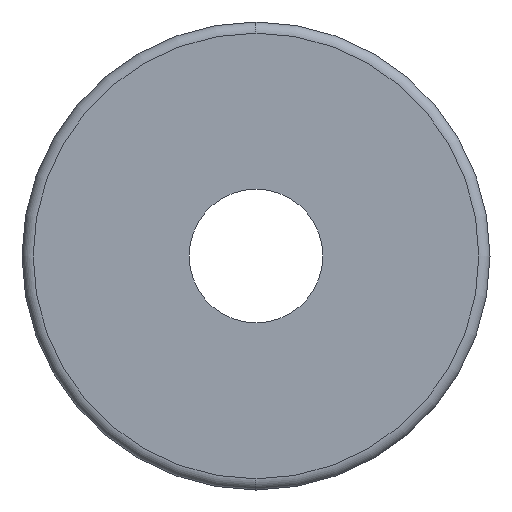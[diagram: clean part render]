
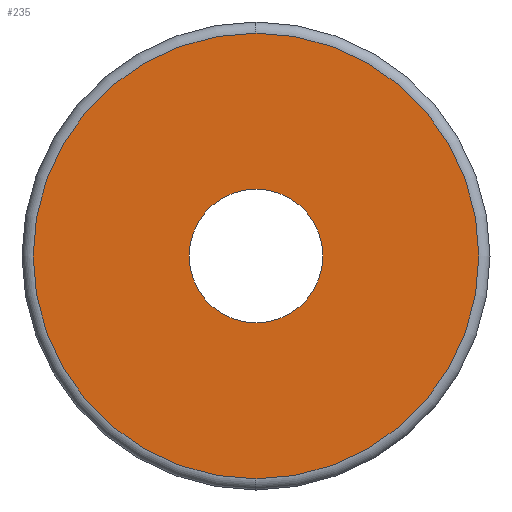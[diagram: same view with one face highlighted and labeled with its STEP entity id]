
A CAD part, left-side view. The second image highlights one B-rep face of the part: STEP entity #235.
In plain terms, the highlighted planar face has unit normal (-1, 0, 0).
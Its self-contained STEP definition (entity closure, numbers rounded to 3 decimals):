
#1 = DIRECTION ( 'NONE',  ( 0., 0., -1. ) ) ;
#14 = DIRECTION ( 'NONE',  ( 0., 0., 1. ) ) ;
#16 = DIRECTION ( 'NONE',  ( 1., 0., 0. ) ) ;
#37 = VERTEX_POINT ( 'NONE', #179 ) ;
#66 = ORIENTED_EDGE ( 'NONE', *, *, #378, .F. ) ;
#75 = AXIS2_PLACEMENT_3D ( 'NONE', #343, #325, #274 ) ;
#92 = AXIS2_PLACEMENT_3D ( 'NONE', #142, #363, #170 ) ;
#94 = AXIS2_PLACEMENT_3D ( 'NONE', #372, #229, #1 ) ;
#113 = CARTESIAN_POINT ( 'NONE',  ( 0., 0., -20. ) ) ;
#139 = EDGE_CURVE ( 'NONE', #254, #395, #329, .T. ) ;
#142 = CARTESIAN_POINT ( 'NONE',  ( 0., 0., 0. ) ) ;
#147 = FACE_OUTER_BOUND ( 'NONE', #359, .T. ) ;
#157 = EDGE_CURVE ( 'NONE', #261, #37, #233, .T. ) ;
#170 = DIRECTION ( 'NONE',  ( 0., 0., -1. ) ) ;
#171 = EDGE_LOOP ( 'NONE', ( #302, #66 ) ) ;
#175 = ORIENTED_EDGE ( 'NONE', *, *, #316, .T. ) ;
#179 = CARTESIAN_POINT ( 'NONE',  ( 0., 0., -6. ) ) ;
#190 = CARTESIAN_POINT ( 'NONE',  ( 0., 6., 0. ) ) ;
#216 = DIRECTION ( 'NONE',  ( -1., 0., 0. ) ) ;
#229 = DIRECTION ( 'NONE',  ( -1., 0., 0. ) ) ;
#230 = AXIS2_PLACEMENT_3D ( 'NONE', #275, #216, #14 ) ;
#233 = CIRCLE ( 'NONE', #75, 6. ) ;
#235 = ADVANCED_FACE ( 'NONE', ( #147, #375 ), #341, .F. ) ;
#254 = VERTEX_POINT ( 'NONE', #347 ) ;
#261 = VERTEX_POINT ( 'NONE', #404 ) ;
#274 = DIRECTION ( 'NONE',  ( 0., 0., 1. ) ) ;
#275 = CARTESIAN_POINT ( 'NONE',  ( 0., 0., 0. ) ) ;
#302 = ORIENTED_EDGE ( 'NONE', *, *, #157, .F. ) ;
#316 = EDGE_CURVE ( 'NONE', #395, #254, #352, .T. ) ;
#320 = AXIS2_PLACEMENT_3D ( 'NONE', #190, #16, #410 ) ;
#325 = DIRECTION ( 'NONE',  ( -1., 0., 0. ) ) ;
#329 = CIRCLE ( 'NONE', #94, 20. ) ;
#332 = ORIENTED_EDGE ( 'NONE', *, *, #139, .T. ) ;
#341 = PLANE ( 'NONE',  #320 ) ;
#343 = CARTESIAN_POINT ( 'NONE',  ( 0., 0., 0. ) ) ;
#347 = CARTESIAN_POINT ( 'NONE',  ( 0., 0., 20. ) ) ;
#352 = CIRCLE ( 'NONE', #92, 20. ) ;
#359 = EDGE_LOOP ( 'NONE', ( #175, #332 ) ) ;
#363 = DIRECTION ( 'NONE',  ( -1., 0., 0. ) ) ;
#372 = CARTESIAN_POINT ( 'NONE',  ( 0., 0., 0. ) ) ;
#375 = FACE_BOUND ( 'NONE', #171, .T. ) ;
#378 = EDGE_CURVE ( 'NONE', #37, #261, #403, .T. ) ;
#395 = VERTEX_POINT ( 'NONE', #113 ) ;
#403 = CIRCLE ( 'NONE', #230, 6. ) ;
#404 = CARTESIAN_POINT ( 'NONE',  ( 0., 0., 6. ) ) ;
#410 = DIRECTION ( 'NONE',  ( 0., 0., -1. ) ) ;
